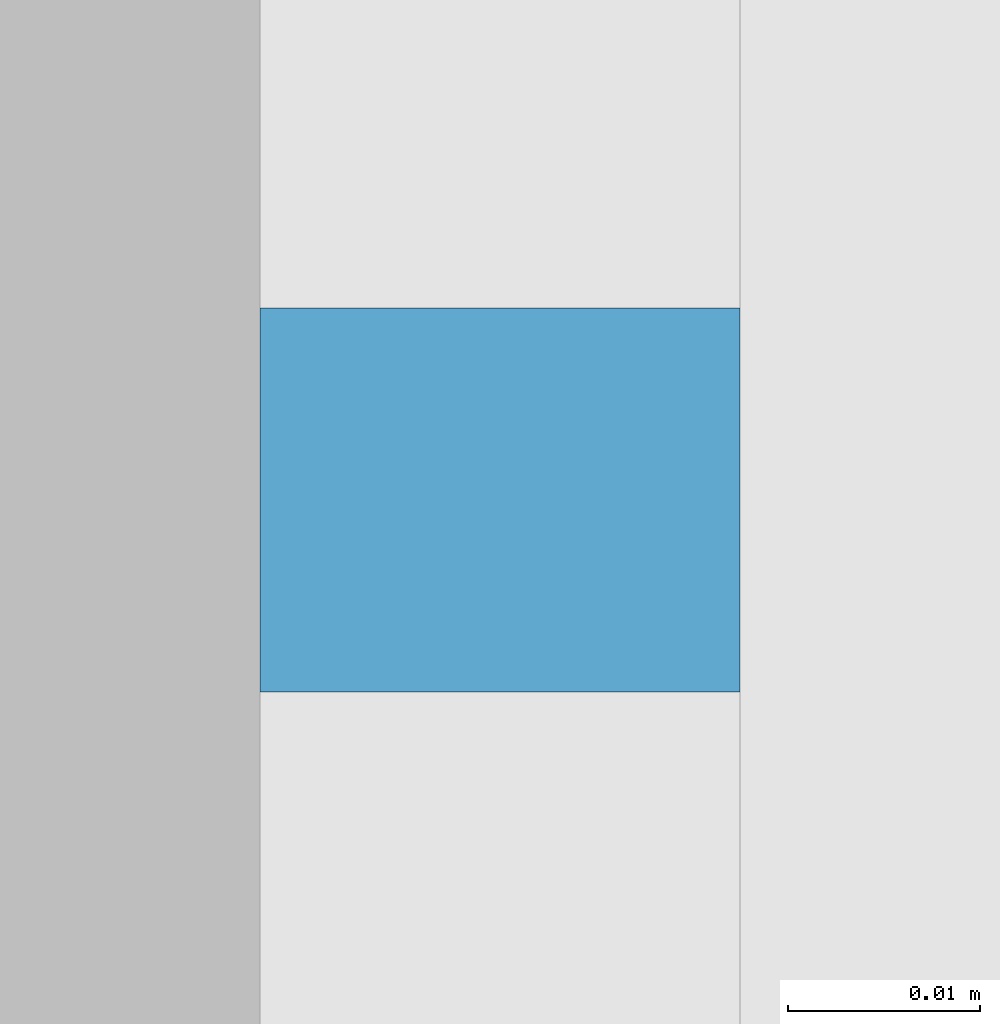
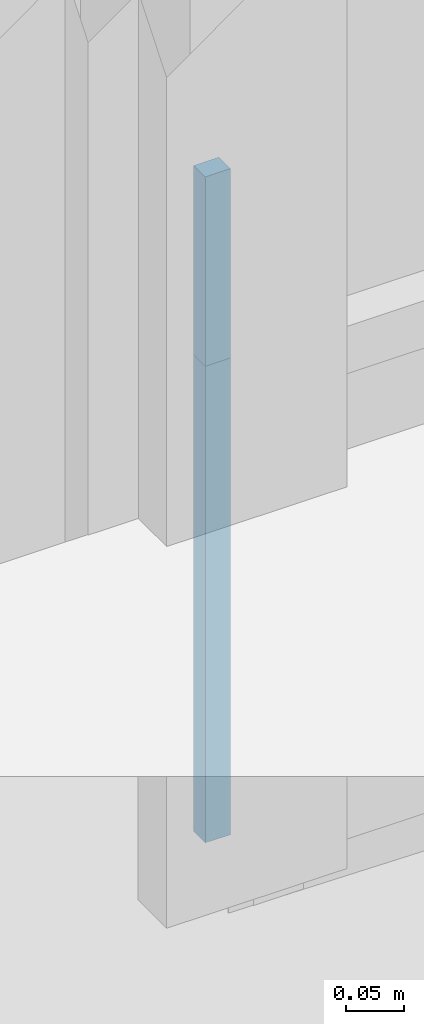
# One storey, part 52 of 117: 2 plates, 1 element without a shape of its own.
"""IFC4 building model written with IfcOpenShell, lengths in metres."""

from ifc_helpers import new_model, entity, si_unit, converted_unit, derived_unit, direction, frame, origin, place, context, subcontext, project, spatial, indexed_curve, outline, extrude, source, transform, mapped, material, type_object, type_shapes, element, aggregate, save


model = new_model("IFC4")

# Units and contexts
model_context = context("Model", 3, precision=1e-05, world=origin(), true_north=direction((6.123031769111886e-17, 1.0)))
body_context = subcontext(model_context, "Body", "Model", "MODEL_VIEW")
ifc_project = project(units=[si_unit("LENGTHUNIT", "METRE"), si_unit("AREAUNIT", "SQUARE_METRE"), si_unit("VOLUMEUNIT", "CUBIC_METRE"), converted_unit("PLANEANGLEUNIT", "DEGREE", entity("IfcRatioMeasure", 0.017453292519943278), si_unit("PLANEANGLEUNIT", "RADIAN"), dimensions=[0, 0, 0, 0, 0, 0, 0]), si_unit("MASSUNIT", "GRAM", prefix="KILO"), derived_unit("MASSDENSITYUNIT", [(si_unit("MASSUNIT", "GRAM", prefix="KILO"), 1), (si_unit("LENGTHUNIT", "METRE"), -3)]), derived_unit("MOMENTOFINERTIAUNIT", [(si_unit("LENGTHUNIT", "METRE"), 4)]), si_unit("TIMEUNIT", "SECOND"), si_unit("FREQUENCYUNIT", "HERTZ"), si_unit("THERMODYNAMICTEMPERATUREUNIT", "DEGREE_CELSIUS"), derived_unit("THERMALTRANSMITTANCEUNIT", [(si_unit("MASSUNIT", "GRAM", prefix="KILO"), 1), (si_unit("THERMODYNAMICTEMPERATUREUNIT", "KELVIN"), -1), (si_unit("TIMEUNIT", "SECOND"), -3)]), derived_unit("VOLUMETRICFLOWRATEUNIT", [(si_unit("LENGTHUNIT", "METRE"), 3), (si_unit("TIMEUNIT", "SECOND"), -1)]), derived_unit("MASSFLOWRATEUNIT", [(si_unit("MASSUNIT", "GRAM", prefix="KILO"), 1), (si_unit("TIMEUNIT", "SECOND"), -1)]), derived_unit("ROTATIONALFREQUENCYUNIT", [(si_unit("TIMEUNIT", "SECOND"), -1)]), si_unit("ELECTRICCURRENTUNIT", "AMPERE"), si_unit("ELECTRICVOLTAGEUNIT", "VOLT"), si_unit("POWERUNIT", "WATT"), si_unit("FORCEUNIT", "NEWTON", prefix="KILO"), si_unit("ILLUMINANCEUNIT", "LUX"), si_unit("LUMINOUSFLUXUNIT", "LUMEN"), si_unit("LUMINOUSINTENSITYUNIT", "CANDELA"), derived_unit("USERDEFINED", [(si_unit("MASSUNIT", "GRAM", prefix="KILO"), -1), (si_unit("LENGTHUNIT", "METRE"), -2), (si_unit("TIMEUNIT", "SECOND"), 3), (si_unit("LUMINOUSFLUXUNIT", "LUMEN"), 1)]), derived_unit("SOUNDPOWERUNIT", [(si_unit("MASSUNIT", "GRAM", prefix="KILO"), 1), (si_unit("LENGTHUNIT", "METRE"), 2), (si_unit("TIMEUNIT", "SECOND"), -3)]), derived_unit("SOUNDPRESSUREUNIT", [(si_unit("MASSUNIT", "GRAM", prefix="KILO"), 1), (si_unit("LENGTHUNIT", "METRE"), -1), (si_unit("TIMEUNIT", "SECOND"), -2)]), derived_unit("LINEARVELOCITYUNIT", [(si_unit("LENGTHUNIT", "METRE"), 1), (si_unit("TIMEUNIT", "SECOND"), -1)]), si_unit("PRESSUREUNIT", "PASCAL"), derived_unit("USERDEFINED", [(si_unit("LENGTHUNIT", "METRE"), -2), (si_unit("MASSUNIT", "GRAM", prefix="KILO"), 1), (si_unit("TIMEUNIT", "SECOND"), -2)]), derived_unit("LINEARFORCEUNIT", [(si_unit("MASSUNIT", "GRAM", prefix="KILO"), 1), (si_unit("LENGTHUNIT", "METRE"), 1), (si_unit("TIMEUNIT", "SECOND"), -2), (si_unit("LENGTHUNIT", "METRE"), -1)]), derived_unit("PLANARFORCEUNIT", [(si_unit("MASSUNIT", "GRAM", prefix="KILO"), 1), (si_unit("LENGTHUNIT", "METRE"), 1), (si_unit("TIMEUNIT", "SECOND"), -2), (si_unit("LENGTHUNIT", "METRE"), -2)])], contexts=[model_context])

# Site, building, storey
site_placement = place(None, origin())
site = spatial("IfcSite", under=ifc_project, at=site_placement, Name="Superficie", CompositionType="ELEMENT")
building_placement = place(site_placement, origin())
building = spatial("IfcBuilding", under=site, at=building_placement, CompositionType="ELEMENT")
storey_placement = place(building_placement, origin())
storey = spatial("IfcBuildingStorey", under=building, at=storey_placement, Name="Nivel 0", CompositionType="ELEMENT", Elevation=0.0)

# Curtain wall, plates
curtain_wall_type = type_object("IfcCurtainWallType", Name="Muro cortina:Muro cortina - simple", PredefinedType="NOTDEFINED")
curtain_wall_placement = place(storey_placement, origin())
curtain_wall = element("IfcCurtainWall", 1, at=curtain_wall_placement, inside=storey, type_object=curtain_wall_type, Name="Muro cortina:Muro cortina - simple", ObjectType="Muro cortina:Muro cortina - simple", PredefinedType="NOTDEFINED")
ifc_material = material(Name="Cristal", Category="Vidrio")
plate_type_1 = type_object("IfcPlateType", Name="Panel de sistema:Acristalado", PredefinedType="CURTAIN_PANEL", material=ifc_material)
shared_shape_1 = source(origin(), body_context, "Body", "SweptSolid", [
    extrude(outline(indexed_curve([(-0.2518658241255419, -0.012499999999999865), (0.2516941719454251, -0.012499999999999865), (0.25169417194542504, 0.012499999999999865), (-0.2515225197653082, 0.012499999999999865), (-0.2518658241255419, -0.012499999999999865)], self_intersect=False)), frame((0.0, -0.01, 0.2518658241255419), z_axis=(0.0, 1.0, 0.0), x_axis=(0.0, 0.0, 1.0)), (0.0, 0.0, 1.0), 0.02),
])
type_shapes(plate_type_1, [shared_shape_1])
plate_1_placement = place(curtain_wall_placement, frame((8.904052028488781, 12.654548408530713, -0.39926618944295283), z_axis=(0.0, 0.0, 1.0), x_axis=(-1.0, 0.0, 0.0)))
plate_1 = element("IfcPlate", 2, at=plate_1_placement, type_object=plate_type_1, material=ifc_material, Name="Panel de sistema:Acristalado", ObjectType="Panel de sistema:Acristalado", PredefinedType="CURTAIN_PANEL", context=body_context, shape_type="MappedRepresentation", body=[
    mapped(shared_shape_1, transform((0.0, 0.0, 0.0), scale=1.0)),
])
plate_type_2 = type_object("IfcPlateType", Name="Panel de sistema:Acristalado", PredefinedType="CURTAIN_PANEL", material=ifc_material)
shared_shape_2 = source(origin(), body_context, "Body", "SweptSolid", [
    extrude(outline(indexed_curve([(-0.01, -0.012499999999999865), (0.01, -0.012499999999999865), (0.01, 0.012499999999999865), (-0.01, 0.012499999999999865), (-0.01, -0.012499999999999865)], self_intersect=False)), frame((0.0, 0.0, 0.0), z_axis=(0.0, 0.0, 1.0), x_axis=(0.0, 1.0, 0.0)), (0.0, 0.0, 1.0), 0.2),
])
type_shapes(plate_type_2, [shared_shape_2])
plate_2_placement = place(curtain_wall_placement, frame((8.904052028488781, 12.654548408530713, 0.10429380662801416), z_axis=(0.0, 0.0, 1.0), x_axis=(-1.0, 0.0, 0.0)))
plate_2 = element("IfcPlate", 3, at=plate_2_placement, type_object=plate_type_2, material=ifc_material, Name="Panel de sistema:Acristalado", ObjectType="Panel de sistema:Acristalado", PredefinedType="CURTAIN_PANEL", context=body_context, shape_type="MappedRepresentation", body=[
    mapped(shared_shape_2, transform((0.0, 0.0, 0.0), scale=1.0)),
])
aggregate(curtain_wall, [plate_1, plate_2])

save(model, "model.ifc")
